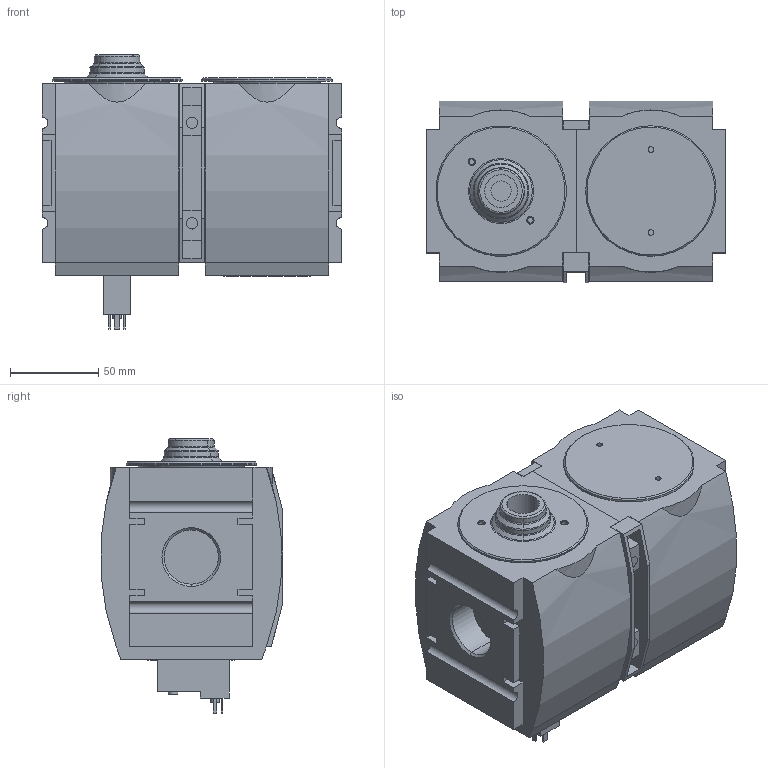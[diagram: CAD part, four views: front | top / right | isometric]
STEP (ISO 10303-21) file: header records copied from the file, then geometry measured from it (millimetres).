
FILE_DESCRIPTION((''),'2;1');
FILE_NAME('R412009283_ASM','2015-05-12T',('pma1hc'),(''),'PRO/ENGINEER BY PARAMETRIC TECHNOLOGY CORPORATION, 2011490','PRO/ENGINEER BY PARAMETRIC TECHNOLOGY CORPORATION, 2011490','');
FILE_SCHEMA(('AUTOMOTIVE_DESIGN_CC2 { 1 2 10303 214 -1 1 5 2 }'));
Length unit declared in the file: millimetre
Products named in the file (4): R412009269; R412009371; R412009273; R412009283_ASM
Assembly tree (3 placements, depth 2):
  R412009283_ASM
    R412009269
    R412009371
    R412009273
Bounding box: 170 x 103.14 x 155.5 mm (x, y, z)
Volume: 1678413.4 mm3; surface area: 154537.6 mm2
Topology: 4 solids, 4 shells, 355 faces, 944 edges, 626 vertices
Faces by surface type: plane 251, cylinder 68, cone 20, torus 16
Entity records: 16227 total; most frequent: CARTESIAN_POINT 2120, ORIENTED_EDGE 1888, DIRECTION 1874, PRESENTATION_STYLE_ASSIGNMENT 1134, STYLED_ITEM 948, CURVE_STYLE 944, EDGE_CURVE 944, VECTOR 726
